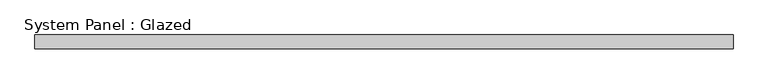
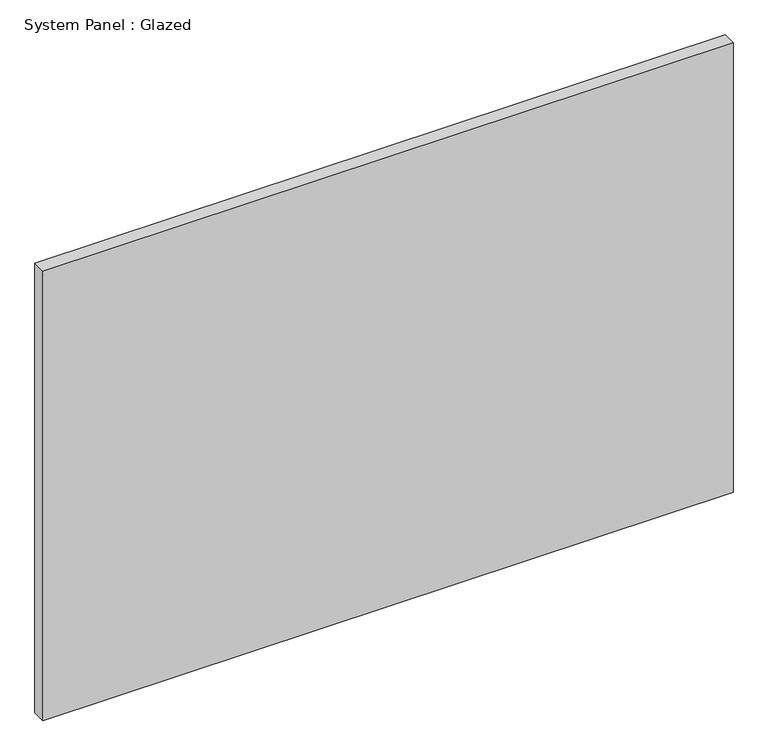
"""IFC4 building model written with IfcOpenShell, lengths in millimetres: plate geometry, System Panel : Glazed."""

from ifc_helpers import new_model, si_unit, origin, origin_with_axes, place, context, project, spatial, polyline, outline, extrude, source, transform, mapped, element, save


def system_panel_glazed_7f2d8600(model_context):
    return source(origin(), model_context, "Body", "SweptSolid", [
        extrude(outline(polyline([(631.825, 19.05), (-631.825, 19.05), (-631.825, 44.45), (631.825, 44.45), (631.825, 19.05)])), origin_with_axes(), (0.0, 0.0, 1.0), 869.95),
    ])


if __name__ == "__main__":
    model = new_model("IFC4")
    model_context = context("Model", 3, world=origin())
    ifc_project = project(units=[si_unit("LENGTHUNIT", "METRE", prefix="MILLI")], contexts=[model_context])
    site = spatial("IfcSite", under=ifc_project)
    building = spatial("IfcBuilding", under=site)
    placement = place(None, origin())
    system_panel_glazed_shape = system_panel_glazed_7f2d8600(model_context)
    element("IfcPlate", 1, ObjectType="System Panel : Glazed", at=placement, inside=building, context=model_context, shape_type="MappedRepresentation", body=[
        mapped(system_panel_glazed_shape, transform((0.0, 0.0, 0.0), x_axis=(1.0, 0.0, 0.0), y_axis=(0.0, 1.0, 0.0), z_axis=(0.0, 0.0, 1.0))),
    ])
    save(model, "model.ifc")
